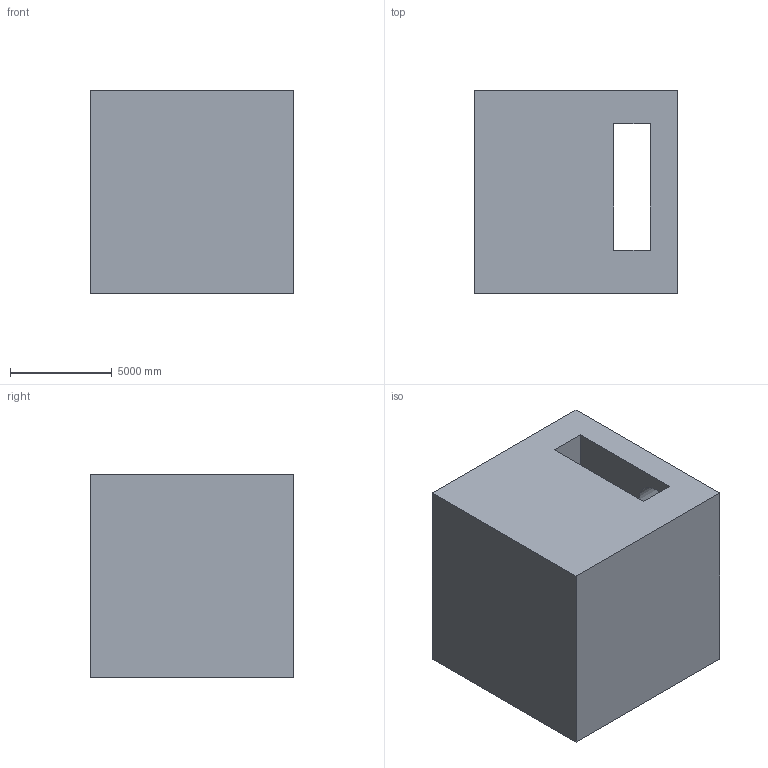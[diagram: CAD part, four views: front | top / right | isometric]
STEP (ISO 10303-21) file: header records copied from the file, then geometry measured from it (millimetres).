
FILE_DESCRIPTION (( 'STEP AP203' ), '1' );
FILE_NAME ('101.STEP', '2022-09-06T15:05:07', ( 'user' ), ( '' ), 'SwSTEP 2.0', 'SolidWorks 2021', '' );
FILE_SCHEMA (( 'CONFIG_CONTROL_DESIGN' ));
Length unit declared in the file: centimetre
Products named in the file (1): 101
Bounding box: 10000 x 10000 x 10000 mm (x, y, z)
Volume: 876791312361.8 mm3; surface area: 746431875.3 mm2
Topology: 1 solids, 1 shells, 15 faces, 42 edges, 28 vertices
Faces by surface type: plane 12, cylinder 3
Entity records: 571 total; most frequent: CARTESIAN_POINT 86, ORIENTED_EDGE 84, DIRECTION 84, EDGE_CURVE 42, VECTOR 32, LINE 32, VERTEX_POINT 28, AXIS2_PLACEMENT_3D 26
